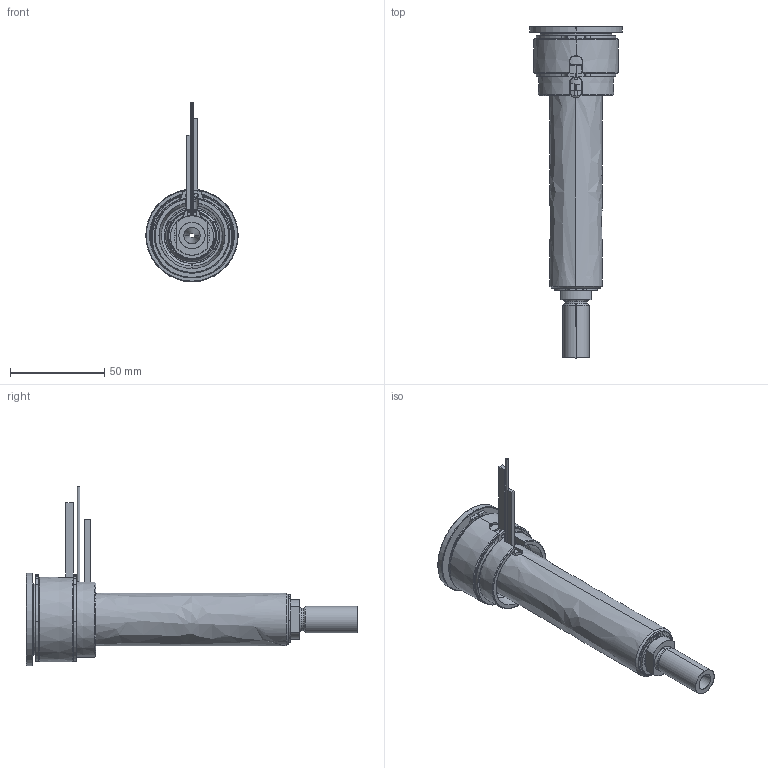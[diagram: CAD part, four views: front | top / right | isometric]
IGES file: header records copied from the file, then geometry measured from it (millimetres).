
Start section: SolidWorks IGES file using analytic representation for surfaces
Global section: file name: C:\Documents and Settings\ws-20\Desktop\TEM\UGBE4503-S-A-P-5 [Ød-2.5 P-25 ØC-10].IGS; native system: SolidWorks 2012; preprocessor: SolidWorks 2012; author: ws-20; date: 120412.154749; units: millimetre
Bounding box: 49 x 176 x 95.15 mm (x, y, z)
Surface area: 58323.8 mm2 (no closed solid volume)
Topology: 0 solids, 0 shells, 166 faces, 3143 edges, 3143 vertices
Faces by surface type: revolution 107, bspline 59
